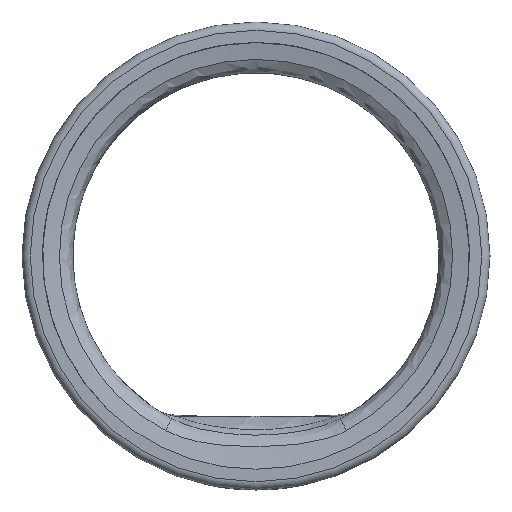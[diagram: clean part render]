
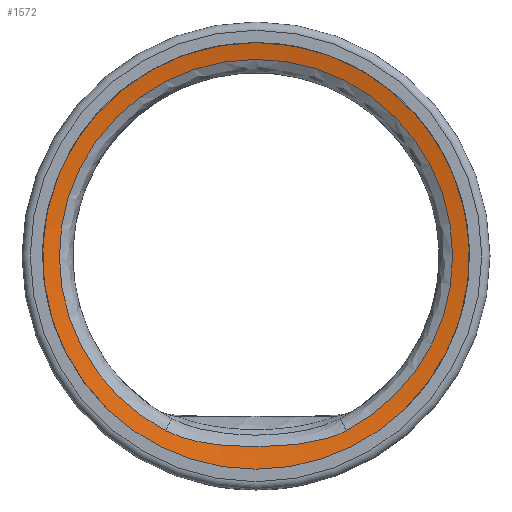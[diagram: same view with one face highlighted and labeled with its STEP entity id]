
A CAD part, left-side view. The second image highlights one B-rep face of the part: STEP entity #1572.
In plain terms, the highlighted conical face has half-angle 79.824 degrees and reference radius 9.428 mm.
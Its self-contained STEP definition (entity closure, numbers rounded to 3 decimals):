
#66=LINE('',#2202,#140);
#140=VECTOR('',#1772,9.428);
#214=CONICAL_SURFACE('',#1687,9.428,1.393);
#219=FACE_OUTER_BOUND('',#316,.T.);
#316=EDGE_LOOP('',(#1019,#1020,#1021,#1022,#1023,#1024,#1025,#1026));
#420=B_SPLINE_CURVE_WITH_KNOTS('',3,(#2040,#2041,#2042,#2043,#2044,#2045,
#2046),.UNSPECIFIED.,.F.,.F.,(4,1,2,4),(-0.933,-0.689,
-0.527,-0.466),.UNSPECIFIED.);
#421=B_SPLINE_CURVE_WITH_KNOTS('',3,(#2048,#2049,#2050,#2051,#2052,#2053),
 .UNSPECIFIED.,.F.,.F.,(4,2,4),(-0.466,-0.28,0.),
 .UNSPECIFIED.);
#424=B_SPLINE_CURVE_WITH_KNOTS('',3,(#2125,#2126,#2127,#2128,#2129,#2130,
#2131,#2132,#2133,#2134),.UNSPECIFIED.,.F.,.F.,(4,1,1,1,1,1,1,4),(0.,
0.753,1.505,2.258,3.011,3.763,
4.516,5.269),.UNSPECIFIED.);
#428=B_SPLINE_CURVE_WITH_KNOTS('',3,(#2206,#2207,#2208,#2209,#2210,#2211,
#2212,#2213,#2214,#2215,#2216,#2217,#2218,#2219,#2220,#2221,#2222,#2223,
#2224,#2225,#2226,#2227,#2228,#2229,#2230,#2231,#2232,#2233,#2234,#2235,
#2236),.UNSPECIFIED.,.F.,.F.,(4,2,2,2,2,2,2,3,2,2,2,2,2,2,4),(3.967,
3.988,4.387,4.786,5.184,5.582,
5.979,6.377,6.774,7.171,7.569,
7.967,8.366,8.765,8.786),
 .UNSPECIFIED.);
#554=CIRCLE('',#1688,10.605);
#555=CIRCLE('',#1689,10.605);
#590=VERTEX_POINT('',#2037);
#591=VERTEX_POINT('',#2039);
#592=VERTEX_POINT('',#2047);
#598=VERTEX_POINT('',#2201);
#599=VERTEX_POINT('',#2203);
#600=VERTEX_POINT('',#2205);
#754=EDGE_CURVE('',#590,#591,#420,.T.);
#755=EDGE_CURVE('',#591,#592,#421,.T.);
#759=EDGE_CURVE('',#592,#590,#424,.T.);
#765=EDGE_CURVE('',#591,#598,#66,.T.);
#766=EDGE_CURVE('',#598,#599,#554,.T.);
#767=EDGE_CURVE('',#599,#600,#428,.F.);
#768=EDGE_CURVE('',#600,#598,#555,.T.);
#1019=ORIENTED_EDGE('',*,*,#754,.F.);
#1020=ORIENTED_EDGE('',*,*,#759,.F.);
#1021=ORIENTED_EDGE('',*,*,#755,.F.);
#1022=ORIENTED_EDGE('',*,*,#765,.T.);
#1023=ORIENTED_EDGE('',*,*,#766,.T.);
#1024=ORIENTED_EDGE('',*,*,#767,.T.);
#1025=ORIENTED_EDGE('',*,*,#768,.T.);
#1026=ORIENTED_EDGE('',*,*,#765,.F.);
#1572=ADVANCED_FACE('',(#219),#214,.F.);
#1687=AXIS2_PLACEMENT_3D('',#2200,#1770,#1771);
#1688=AXIS2_PLACEMENT_3D('',#2204,#1773,#1774);
#1689=AXIS2_PLACEMENT_3D('',#2237,#1775,#1776);
#1770=DIRECTION('center_axis',(-1.,0.,0.));
#1771=DIRECTION('ref_axis',(0.,0.,1.));
#1772=DIRECTION('',(-0.177,0.,-0.984));
#1773=DIRECTION('center_axis',(-1.,0.,0.));
#1774=DIRECTION('ref_axis',(0.,0.,1.));
#1775=DIRECTION('center_axis',(-1.,0.,0.));
#1776=DIRECTION('ref_axis',(0.,0.,1.));
#2037=CARTESIAN_POINT('',(-3.902,4.484,-8.657));
#2039=CARTESIAN_POINT('',(-3.85,0.,-9.458));
#2040=CARTESIAN_POINT('Ctrl Pts',(-3.902,4.484,-8.657));
#2041=CARTESIAN_POINT('Ctrl Pts',(-3.902,3.775,-9.024));
#2042=CARTESIAN_POINT('Ctrl Pts',(-3.872,2.458,-9.33));
#2043=CARTESIAN_POINT('Ctrl Pts',(-3.855,1.134,-9.432));
#2044=CARTESIAN_POINT('Ctrl Pts',(-3.851,0.402,-9.454));
#2045=CARTESIAN_POINT('Ctrl Pts',(-3.85,0.201,-9.458));
#2046=CARTESIAN_POINT('Ctrl Pts',(-3.85,0.,
-9.458));
#2047=CARTESIAN_POINT('',(-3.902,-4.484,-8.657));
#2048=CARTESIAN_POINT('Ctrl Pts',(-3.85,0.,
-9.458));
#2049=CARTESIAN_POINT('Ctrl Pts',(-3.851,-0.611,
-9.459));
#2050=CARTESIAN_POINT('Ctrl Pts',(-3.856,-1.223,-9.43));
#2051=CARTESIAN_POINT('Ctrl Pts',(-3.878,-2.741,-9.259));
#2052=CARTESIAN_POINT('Ctrl Pts',(-3.902,-3.666,-9.08));
#2053=CARTESIAN_POINT('Ctrl Pts',(-3.902,-4.484,-8.657));
#2125=CARTESIAN_POINT('Ctrl Pts',(-3.902,-4.484,-8.657));
#2126=CARTESIAN_POINT('Ctrl Pts',(-3.901,-6.68,-7.519));
#2127=CARTESIAN_POINT('Ctrl Pts',(-3.899,-10.158,-3.501));
#2128=CARTESIAN_POINT('Ctrl Pts',(-3.894,-9.765,4.47));
#2129=CARTESIAN_POINT('Ctrl Pts',(-3.89,-3.99,9.977));
#2130=CARTESIAN_POINT('Ctrl Pts',(-3.89,3.988,9.97));
#2131=CARTESIAN_POINT('Ctrl Pts',(-3.894,9.772,4.474));
#2132=CARTESIAN_POINT('Ctrl Pts',(-3.899,10.153,-3.502));
#2133=CARTESIAN_POINT('Ctrl Pts',(-3.901,6.68,-7.519));
#2134=CARTESIAN_POINT('Ctrl Pts',(-3.902,4.484,-8.657));
#2200=CARTESIAN_POINT('Origin',(-3.839,0.,0.035));
#2201=CARTESIAN_POINT('',(-4.05,0.,-10.57));
#2202=CARTESIAN_POINT('',(-3.839,0.,-9.393));
#2203=CARTESIAN_POINT('',(-4.05,-7.351,-7.609));
#2204=CARTESIAN_POINT('Origin',(-4.05,0.,0.035));
#2205=CARTESIAN_POINT('',(-4.05,7.351,-7.609));
#2206=CARTESIAN_POINT('Ctrl Pts',(-4.05,7.351,-7.609));
#2207=CARTESIAN_POINT('Ctrl Pts',(-4.05,7.401,-7.561));
#2208=CARTESIAN_POINT('Ctrl Pts',(-4.05,7.45,-7.512));
#2209=CARTESIAN_POINT('Ctrl Pts',(-4.049,8.437,-6.521));
#2210=CARTESIAN_POINT('Ctrl Pts',(-4.049,9.249,-5.328));
#2211=CARTESIAN_POINT('Ctrl Pts',(-4.047,10.323,-2.715));
#2212=CARTESIAN_POINT('Ctrl Pts',(-4.046,10.584,-1.295));
#2213=CARTESIAN_POINT('Ctrl Pts',(-4.045,10.576,1.362));
#2214=CARTESIAN_POINT('Ctrl Pts',(-4.044,10.306,2.776));
#2215=CARTESIAN_POINT('Ctrl Pts',(-4.042,9.22,5.377));
#2216=CARTESIAN_POINT('Ctrl Pts',(-4.042,8.404,6.563));
#2217=CARTESIAN_POINT('Ctrl Pts',(-4.041,6.525,8.433));
#2218=CARTESIAN_POINT('Ctrl Pts',(-4.04,5.338,9.243));
#2219=CARTESIAN_POINT('Ctrl Pts',(-4.039,2.737,10.316));
#2220=CARTESIAN_POINT('Ctrl Pts',(-4.039,1.324,10.58));
#2221=CARTESIAN_POINT('Ctrl Pts',(-4.039,0.,10.58));
#2222=CARTESIAN_POINT('Ctrl Pts',(-4.039,-1.324,10.58));
#2223=CARTESIAN_POINT('Ctrl Pts',(-4.039,-2.737,10.316));
#2224=CARTESIAN_POINT('Ctrl Pts',(-4.04,-5.338,9.243));
#2225=CARTESIAN_POINT('Ctrl Pts',(-4.041,-6.525,8.433));
#2226=CARTESIAN_POINT('Ctrl Pts',(-4.042,-8.404,6.563));
#2227=CARTESIAN_POINT('Ctrl Pts',(-4.042,-9.22,5.377));
#2228=CARTESIAN_POINT('Ctrl Pts',(-4.044,-10.306,2.776));
#2229=CARTESIAN_POINT('Ctrl Pts',(-4.045,-10.576,1.362));
#2230=CARTESIAN_POINT('Ctrl Pts',(-4.046,-10.584,-1.295));
#2231=CARTESIAN_POINT('Ctrl Pts',(-4.047,-10.323,-2.715));
#2232=CARTESIAN_POINT('Ctrl Pts',(-4.049,-9.249,-5.328));
#2233=CARTESIAN_POINT('Ctrl Pts',(-4.049,-8.437,-6.521));
#2234=CARTESIAN_POINT('Ctrl Pts',(-4.05,-7.45,-7.512));
#2235=CARTESIAN_POINT('Ctrl Pts',(-4.05,-7.401,-7.561));
#2236=CARTESIAN_POINT('Ctrl Pts',(-4.05,-7.351,-7.609));
#2237=CARTESIAN_POINT('Origin',(-4.05,0.,0.035));
